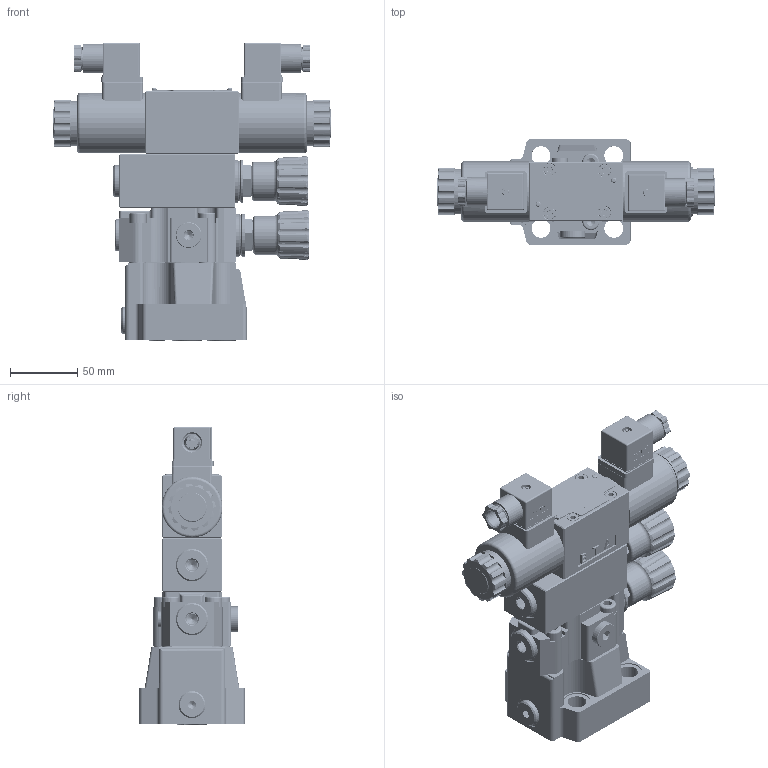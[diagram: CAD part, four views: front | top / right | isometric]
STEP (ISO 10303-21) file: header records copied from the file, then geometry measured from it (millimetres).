
FILE_DESCRIPTION(/* description */ (''),/* implementation_level */ '2;1');
FILE_NAME(/* name */ 'DB2U10...-5XJ.stp',/* time_stamp */ '2025-04-12T12:57:05+08:00',/* author */ (''),/* organization */ (''),/* preprocessor_version */ 'ST-DEVELOPER v16.7',/* originating_system */ 'SIEMENS PLM Software NX 12.0',/* authorisation */ '');
FILE_SCHEMA (('AUTOMOTIVE_DESIGN { 1 0 10303 214 3 1 1 1 }'));
Products named in the file (1): DB2U10...5XJ
Bounding box: 206.4 x 78 x 221.12 mm (x, y, z)
Volume: 466850.3 mm3; surface area: 300124.7 mm2
Topology: 126 solids, 139 shells, 5636 faces, 15154 edges, 9983 vertices
Faces by surface type: plane 3640, cylinder 1230, cone 340, bspline 192, torus 111, extrusion 109, sphere 14
Full cylindrical faces by diameter (mm): 0.5 x4, 0.8 x1, 1 x1, 1.2 x1, 1.65 x6, 1.8 x4, 2 x19, 2.125 x6, 2.2 x2, 2.5 x10, 2.8 x6, 3 x15, 3.4 x7, 4 x3, 4.2 x3, 4.3 x44, 4.4 x2, 4.5 x6, 5 x260, 5.3 x4, 5.32 x2, 5.4 x4, 5.5 x4, 6 x11, 6.2 x2, 6.4 x2, 7 x17, 7.2 x2, 8 x11, 8.4 x4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
Entity records: 412862 total; most frequent: CARTESIAN_POINT 286800, ORIENTED_EDGE 25896, DIRECTION 23279, EDGE_CURVE 12948, VECTOR 9501, LINE 9392, VERTEX_POINT 8797, AXIS2_PLACEMENT_3D 6889
